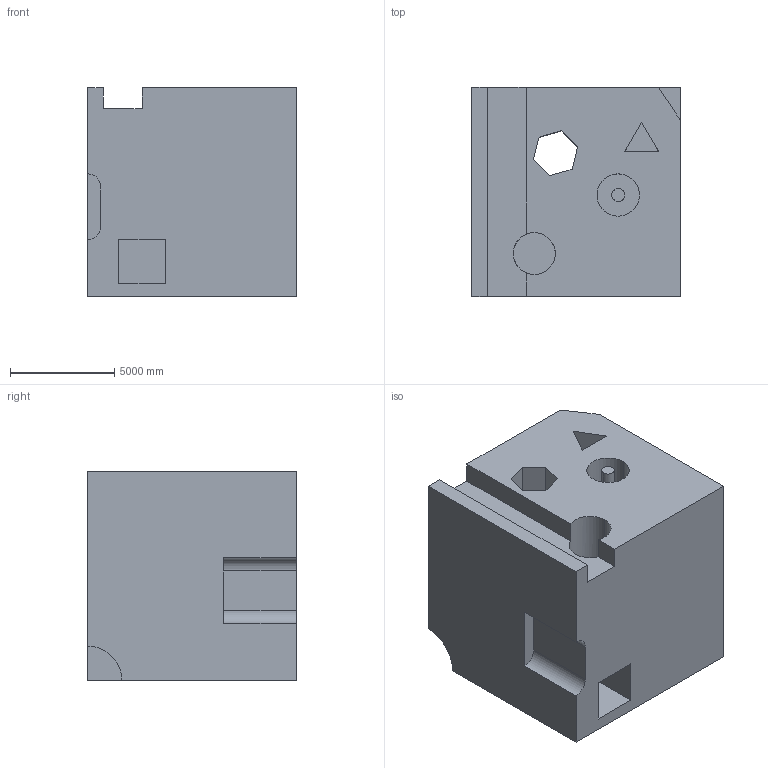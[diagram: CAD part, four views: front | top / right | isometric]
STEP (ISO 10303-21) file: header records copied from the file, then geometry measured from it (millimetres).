
FILE_DESCRIPTION (( 'STEP AP203' ), '1' );
FILE_NAME ('1939.STEP', '2022-08-23T09:43:30', ( 'user' ), ( '' ), 'SwSTEP 2.0', 'SolidWorks 2021', '' );
FILE_SCHEMA (( 'CONFIG_CONTROL_DESIGN' ));
Length unit declared in the file: centimetre
Products named in the file (1): 1939
Bounding box: 10000 x 10000 x 10000 mm (x, y, z)
Volume: 852844926646.5 mm3; surface area: 831541803.9 mm2
Topology: 1 solids, 1 shells, 52 faces, 141 edges, 94 vertices
Faces by surface type: plane 43, cylinder 9
Entity records: 1710 total; most frequent: CARTESIAN_POINT 288, ORIENTED_EDGE 282, DIRECTION 267, EDGE_CURVE 141, LINE 121, VECTOR 121, VERTEX_POINT 94, AXIS2_PLACEMENT_3D 73
